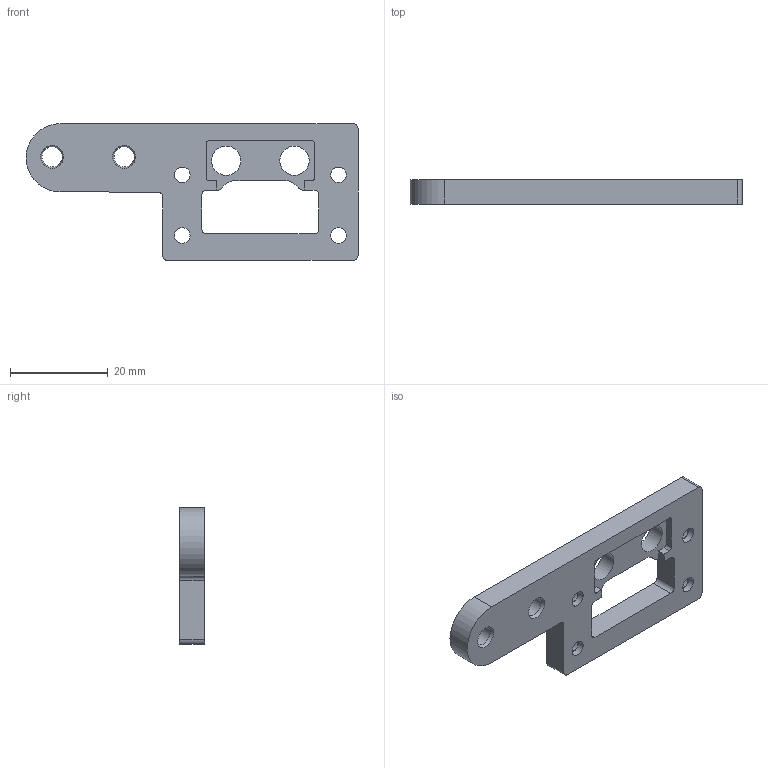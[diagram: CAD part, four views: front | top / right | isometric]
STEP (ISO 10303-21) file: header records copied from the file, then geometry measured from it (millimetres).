
FILE_DESCRIPTION(/* description */ (''),/* implementation_level */ '2;1');
FILE_NAME(/* name */ 'HMG6-Gantry-Adapter-Core-Inserts.step',/* time_stamp */ '2022-11-01T21:19:54-07:00',/* author */ (''),/* organization */ (''),/* preprocessor_version */ 'ST-DEVELOPER v19.2',/* originating_system */ 'Autodesk Translation Framework v11.17.0.187',/* authorisation */ '');
FILE_SCHEMA (('AUTOMOTIVE_DESIGN { 1 0 10303 214 3 1 1 }'));
Length unit declared in the file: millimetre
Products named in the file (3): GEN_7_1.5; mk8_Gantry_Adapter v7; Component158 (1)
Assembly tree (2 placements, depth 3):
  GEN_7_1.5
    mk8_Gantry_Adapter v7
      Component158 (1)
Bounding box: 68 x 5 x 28 mm (x, y, z)
Volume: 5190.7 mm3; surface area: 4131.5 mm2
Topology: 1 solids, 1 shells, 100 faces, 272 edges, 174 vertices
Faces by surface type: plane 69, cylinder 29, cone 2
Full cylindrical faces by diameter (mm): 3.2 x4, 4.15 x2, 6 x6
Entity records: 3271 total; most frequent: DIRECTION 570, CARTESIAN_POINT 551, ORIENTED_EDGE 544, EDGE_CURVE 272, AXIS2_PLACEMENT_3D 193, LINE 184, VECTOR 184, VERTEX_POINT 174
